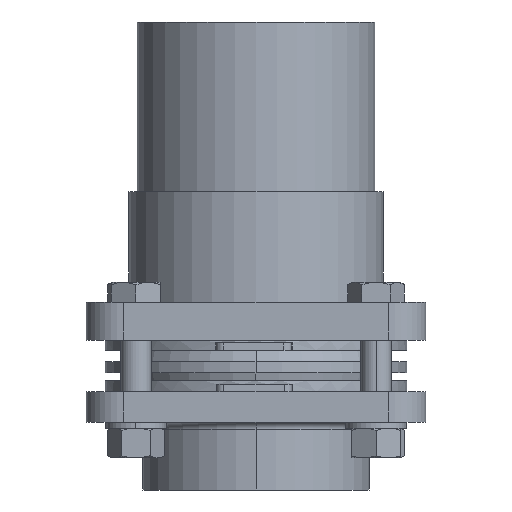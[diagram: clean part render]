
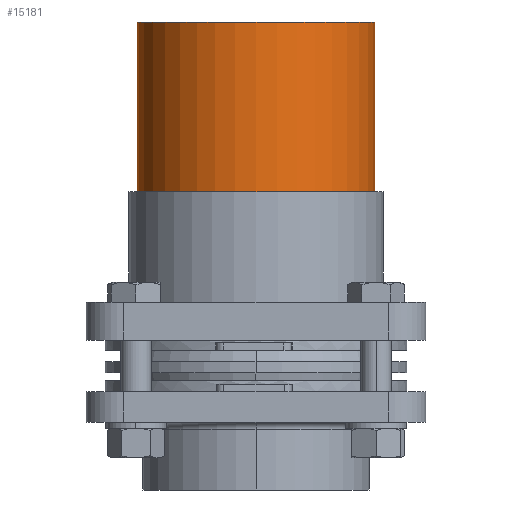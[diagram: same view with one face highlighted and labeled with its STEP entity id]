
A CAD part, front view. The second image highlights one B-rep face of the part: STEP entity #15181.
In plain terms, the highlighted cylindrical face has radius 31.5 mm (diameter 63 mm), a partial arc.
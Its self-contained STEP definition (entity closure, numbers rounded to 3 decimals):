
#1699 = ORIENTED_EDGE ( 'NONE', *, *, #2984, .F. ) ;
#1700 = ORIENTED_EDGE ( 'NONE', *, *, #2996, .F. ) ;
#1701 = ORIENTED_EDGE ( 'NONE', *, *, #2975, .T. ) ;
#1702 = ORIENTED_EDGE ( 'NONE', *, *, #2995, .T. ) ;
#2975 = EDGE_CURVE ( 'NONE', #10315, #10268, #6748, .T. ) ;
#2984 = EDGE_CURVE ( 'NONE', #10319, #10318, #6765, .T. ) ;
#2995 = EDGE_CURVE ( 'NONE', #10268, #10318, #3009, .T. ) ;
#2996 = EDGE_CURVE ( 'NONE', #10315, #10319, #3011, .T. ) ;
#3009 = CIRCLE ( 'NONE', #3012, 31.5 ) ;
#3011 = CIRCLE ( 'NONE', #3014, 31.5 ) ;
#3012 = AXIS2_PLACEMENT_3D ( 'NONE', #6810, #6811, #6812 ) ;
#3014 = AXIS2_PLACEMENT_3D ( 'NONE', #6813, #6814, #6815 ) ;
#3284 = AXIS2_PLACEMENT_3D ( 'NONE', #12286, #12282, #12288 ) ;
#6740 = CARTESIAN_POINT ( 'NONE',  ( -31.5, 0., 75. ) ) ;
#6748 = LINE ( 'NONE', #6740, #8082 ) ;
#6752 = DIRECTION ( 'NONE',  ( 0., 0., -1. ) ) ;
#6765 = LINE ( 'NONE', #6772, #8108 ) ;
#6772 = CARTESIAN_POINT ( 'NONE',  ( 31.5, 0., 75. ) ) ;
#6779 = DIRECTION ( 'NONE',  ( 0., 0., -1. ) ) ;
#6810 = CARTESIAN_POINT ( 'NONE',  ( 0., 0., 0. ) ) ;
#6811 = DIRECTION ( 'NONE',  ( 0., 0., 1. ) ) ;
#6812 = DIRECTION ( 'NONE',  ( 1., 0., 0. ) ) ;
#6813 = CARTESIAN_POINT ( 'NONE',  ( 0., 0., 75. ) ) ;
#6814 = DIRECTION ( 'NONE',  ( 0., 0., 1. ) ) ;
#6815 = DIRECTION ( 'NONE',  ( 1., 0., 0. ) ) ;
#6836 = CARTESIAN_POINT ( 'NONE',  ( -31.5, 0., 0. ) ) ;
#6880 = CARTESIAN_POINT ( 'NONE',  ( -31.5, 0., 75. ) ) ;
#6883 = CARTESIAN_POINT ( 'NONE',  ( 31.5, 0., 0. ) ) ;
#6884 = CARTESIAN_POINT ( 'NONE',  ( 31.5, 0., 75. ) ) ;
#8082 = VECTOR ( 'NONE', #6752, 1000. ) ;
#8108 = VECTOR ( 'NONE', #6779, 1000. ) ;
#10268 = VERTEX_POINT ( 'NONE', #6836 ) ;
#10315 = VERTEX_POINT ( 'NONE', #6880 ) ;
#10318 = VERTEX_POINT ( 'NONE', #6883 ) ;
#10319 = VERTEX_POINT ( 'NONE', #6884 ) ;
#12282 = DIRECTION ( 'NONE',  ( 0., 0., -1. ) ) ;
#12285 = FACE_OUTER_BOUND ( 'NONE', #13654, .T. ) ;
#12286 = CARTESIAN_POINT ( 'NONE',  ( 0., 0., 75. ) ) ;
#12287 = CYLINDRICAL_SURFACE ( 'NONE', #3284, 31.5 ) ;
#12288 = DIRECTION ( 'NONE',  ( -1., 0., 0. ) ) ;
#13654 = EDGE_LOOP ( 'NONE', ( #1699, #1700, #1701, #1702 ) ) ;
#15181 = ADVANCED_FACE ( 'NONE', ( #12285 ), #12287, .T. ) ;
